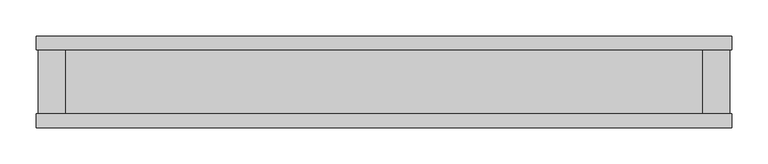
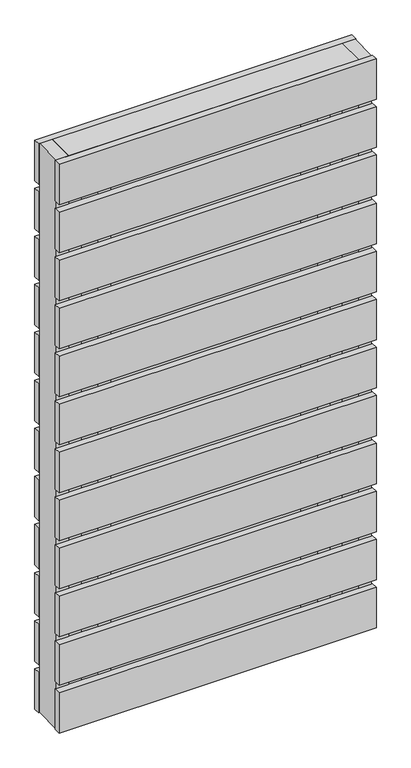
"""IFC4 building model written with IfcOpenShell, lengths in millimetres: furniture geometry, GMi_Companies-Pallet : PLTW-7238-KP-MC."""

from ifc_helpers import new_model, si_unit, frame, origin, origin_with_axes, place, context, project, spatial, polyline, outline, extrude, source, transform, mapped, element, save


def furniture_77da2620(model_context):
    return source(origin(), model_context, "Body", "SweptSolid", [
        extrude(outline(polyline([(965.2, -107.9499985), (965.2, -126.9999985), (0.0, -126.9999985), (0.0, -107.9499985), (965.2, -107.9499985)])), frame((0.0, 0.0, 154.4204545), z_axis=(0.0, 0.0, 1.0), x_axis=(1.0, 0.0, 0.0)), (0.0, 0.0, 1.0), 130.175),
        extrude(outline(polyline([(965.2, 0.0), (965.2, -19.05), (0.0, -19.05), (0.0, 0.0), (965.2, 0.0)])), frame((0.0, 0.0, 154.4204545), z_axis=(0.0, 0.0, 1.0), x_axis=(1.0, 0.0, 0.0)), (0.0, 0.0, 1.0), 130.175),
        extrude(outline(polyline([(965.2, -107.9499985), (965.2, -126.9999985), (0.0, -126.9999985), (0.0, -107.9499985), (965.2, -107.9499985)])), frame((0.0, 0.0, 308.8409091), z_axis=(0.0, 0.0, 1.0), x_axis=(1.0, 0.0, 0.0)), (0.0, 0.0, 1.0), 130.175),
        extrude(outline(polyline([(965.2, -107.9499985), (965.2, -126.9999985), (0.0, -126.9999985), (0.0, -107.9499985), (965.2, -107.9499985)])), frame((0.0, 0.0, 463.2613636), z_axis=(0.0, 0.0, 1.0), x_axis=(1.0, 0.0, 0.0)), (0.0, 0.0, 1.0), 130.175),
        extrude(outline(polyline([(965.2, -107.9499985), (965.2, -126.9999985), (0.0, -126.9999985), (0.0, -107.9499985), (965.2, -107.9499985)])), frame((0.0, 0.0, 617.6818182), z_axis=(0.0, 0.0, 1.0), x_axis=(1.0, 0.0, 0.0)), (0.0, 0.0, 1.0), 130.175),
        extrude(outline(polyline([(965.2, -107.9499985), (965.2, -126.9999985), (0.0, -126.9999985), (0.0, -107.9499985), (965.2, -107.9499985)])), frame((0.0, 0.0, 772.1022727), z_axis=(0.0, 0.0, 1.0), x_axis=(1.0, 0.0, 0.0)), (0.0, 0.0, 1.0), 130.175),
        extrude(outline(polyline([(965.2, -107.9499985), (965.2, -126.9999985), (0.0, -126.9999985), (0.0, -107.9499985), (965.2, -107.9499985)])), frame((0.0, 0.0, 926.5227273), z_axis=(0.0, 0.0, 1.0), x_axis=(1.0, 0.0, 0.0)), (0.0, 0.0, 1.0), 130.175),
        extrude(outline(polyline([(965.2, -107.9499985), (965.2, -126.9999985), (0.0, -126.9999985), (0.0, -107.9499985), (965.2, -107.9499985)])), frame((0.0, 0.0, 1080.9431818), z_axis=(0.0, 0.0, 1.0), x_axis=(1.0, 0.0, 0.0)), (0.0, 0.0, 1.0), 130.175),
        extrude(outline(polyline([(965.2, -107.9499985), (965.2, -126.9999985), (0.0, -126.9999985), (0.0, -107.9499985), (965.2, -107.9499985)])), frame((0.0, 0.0, 1235.3636364), z_axis=(0.0, 0.0, 1.0), x_axis=(1.0, 0.0, 0.0)), (0.0, 0.0, 1.0), 130.175),
        extrude(outline(polyline([(965.2, -107.9499985), (965.2, -126.9999985), (0.0, -126.9999985), (0.0, -107.9499985), (965.2, -107.9499985)])), frame((0.0, 0.0, 1389.7840909), z_axis=(0.0, 0.0, 1.0), x_axis=(1.0, 0.0, 0.0)), (0.0, 0.0, 1.0), 130.175),
        extrude(outline(polyline([(965.2, -107.9499985), (965.2, -126.9999985), (0.0, -126.9999985), (0.0, -107.9499985), (965.2, -107.9499985)])), frame((0.0, 0.0, 1544.2045455), z_axis=(0.0, 0.0, 1.0), x_axis=(1.0, 0.0, 0.0)), (0.0, 0.0, 1.0), 130.175),
        extrude(outline(polyline([(965.2, 0.0), (965.2, -19.05), (0.0, -19.05), (0.0, 0.0), (965.2, 0.0)])), frame((0.0, 0.0, 308.8409091), z_axis=(0.0, 0.0, 1.0), x_axis=(1.0, 0.0, 0.0)), (0.0, 0.0, 1.0), 130.175),
        extrude(outline(polyline([(965.2, 0.0), (965.2, -19.05), (0.0, -19.05), (0.0, 0.0), (965.2, 0.0)])), frame((0.0, 0.0, 463.2613636), z_axis=(0.0, 0.0, 1.0), x_axis=(1.0, 0.0, 0.0)), (0.0, 0.0, 1.0), 130.175),
        extrude(outline(polyline([(965.2, 0.0), (965.2, -19.05), (0.0, -19.05), (0.0, 0.0), (965.2, 0.0)])), frame((0.0, 0.0, 617.6818182), z_axis=(0.0, 0.0, 1.0), x_axis=(1.0, 0.0, 0.0)), (0.0, 0.0, 1.0), 130.175),
        extrude(outline(polyline([(965.2, 0.0), (965.2, -19.05), (0.0, -19.05), (0.0, 0.0), (965.2, 0.0)])), frame((0.0, 0.0, 772.1022727), z_axis=(0.0, 0.0, 1.0), x_axis=(1.0, 0.0, 0.0)), (0.0, 0.0, 1.0), 130.175),
        extrude(outline(polyline([(965.2, 0.0), (965.2, -19.05), (0.0, -19.05), (0.0, 0.0), (965.2, 0.0)])), frame((0.0, 0.0, 926.5227273), z_axis=(0.0, 0.0, 1.0), x_axis=(1.0, 0.0, 0.0)), (0.0, 0.0, 1.0), 130.175),
        extrude(outline(polyline([(965.2, 0.0), (965.2, -19.05), (0.0, -19.05), (0.0, 0.0), (965.2, 0.0)])), frame((0.0, 0.0, 1080.9431818), z_axis=(0.0, 0.0, 1.0), x_axis=(1.0, 0.0, 0.0)), (0.0, 0.0, 1.0), 130.175),
        extrude(outline(polyline([(965.2, 0.0), (965.2, -19.05), (0.0, -19.05), (0.0, 0.0), (965.2, 0.0)])), frame((0.0, 0.0, 1235.3636364), z_axis=(0.0, 0.0, 1.0), x_axis=(1.0, 0.0, 0.0)), (0.0, 0.0, 1.0), 130.175),
        extrude(outline(polyline([(965.2, 0.0), (965.2, -19.05), (0.0, -19.05), (0.0, 0.0), (965.2, 0.0)])), frame((0.0, 0.0, 1389.7840909), z_axis=(0.0, 0.0, 1.0), x_axis=(1.0, 0.0, 0.0)), (0.0, 0.0, 1.0), 130.175),
        extrude(outline(polyline([(965.2, 0.0), (965.2, -19.05), (0.0, -19.05), (0.0, 0.0), (965.2, 0.0)])), frame((0.0, 0.0, 1544.2045455), z_axis=(0.0, 0.0, 1.0), x_axis=(1.0, 0.0, 0.0)), (0.0, 0.0, 1.0), 130.175),
        extrude(outline(polyline([(965.2, -107.9499985), (965.2, -126.9999985), (0.0, -126.9999985), (0.0, -107.9499985), (965.2, -107.9499985)])), origin_with_axes(), (0.0, 0.0, 1.0), 130.175),
        extrude(outline(polyline([(965.2, 0.0), (965.2, -19.05), (0.0, -19.05), (0.0, 0.0), (965.2, 0.0)])), origin_with_axes(), (0.0, 0.0, 1.0), 130.175),
        extrude(outline(polyline([(965.2, -107.9499985), (965.2, -126.9999985), (0.0, -126.9999985), (0.0, -107.9499985), (965.2, -107.9499985)])), frame((0.0, 0.0, 1698.625), z_axis=(0.0, 0.0, 1.0), x_axis=(1.0, 0.0, 0.0)), (0.0, 0.0, 1.0), 130.175),
        extrude(outline(polyline([(965.2, 0.0), (965.2, -19.05), (0.0, -19.05), (0.0, 0.0), (965.2, 0.0)])), frame((0.0, 0.0, 1698.625), z_axis=(0.0, 0.0, 1.0), x_axis=(1.0, 0.0, 0.0)), (0.0, 0.0, 1.0), 130.175),
        extrude(outline(polyline([(835.025, -107.95), (796.9250091, -107.95), (796.9250091, -19.05), (835.025, -19.05), (835.025, -107.95)])), frame((0.0, 0.0, 38.1), z_axis=(0.0, 0.0, 1.0), x_axis=(1.0, 0.0, 0.0)), (0.0, 0.0, 1.0), 1752.6),
        extrude(outline(polyline([(168.2749939, -107.95), (130.175003, -107.95), (130.175003, -19.05), (168.2749939, -19.05), (168.2749939, -107.95)])), frame((0.0, 0.0, 38.1), z_axis=(0.0, 0.0, 1.0), x_axis=(1.0, 0.0, 0.0)), (0.0, 0.0, 1.0), 1752.6),
        extrude(outline(polyline([(923.9249985, -19.0500015), (923.9249985, -107.9499985), (41.2750015, -107.9499985), (41.2750015, -19.0500015), (923.9249985, -19.0500015)])), frame((0.0, 0.0, 1790.7), z_axis=(0.0, 0.0, 1.0), x_axis=(1.0, 0.0, 0.0)), (0.0, 0.0, 1.0), 38.1),
        extrude(outline(polyline([(923.9249985, -19.0500015), (923.9249985, -107.9499985), (41.2750015, -107.9499985), (41.2750015, -19.0500015), (923.9249985, -19.0500015)])), origin_with_axes(), (0.0, 0.0, 1.0), 38.1),
        extrude(outline(polyline([(41.2750015, -107.95), (3.1750001, -107.95), (3.1750001, -19.05), (41.2750015, -19.05), (41.2750015, -107.95)])), origin_with_axes(), (0.0, 0.0, 1.0), 1828.8),
        extrude(outline(polyline([(962.0249999, -107.95), (923.9249985, -107.95), (923.9249985, -19.05), (962.0249999, -19.05), (962.0249999, -107.95)])), origin_with_axes(), (0.0, 0.0, 1.0), 1828.8),
    ])


if __name__ == "__main__":
    model = new_model("IFC4")
    model_context = context("Model", 3, world=origin())
    ifc_project = project(units=[si_unit("LENGTHUNIT", "METRE", prefix="MILLI")], contexts=[model_context])
    site = spatial("IfcSite", under=ifc_project)
    building = spatial("IfcBuilding", under=site)
    placement = place(None, origin())
    furniture_shape = furniture_77da2620(model_context)
    element("IfcFurniture", 1, ObjectType="GMi_Companies-Pallet : PLTW-7238-KP-MC", at=placement, inside=building, context=model_context, shape_type="MappedRepresentation", body=[
        mapped(furniture_shape, transform((0.0, 0.0, 0.0), x_axis=(1.0, 0.0, 0.0), y_axis=(0.0, 1.0, 0.0), z_axis=(0.0, 0.0, 1.0))),
    ])
    save(model, "model.ifc")
